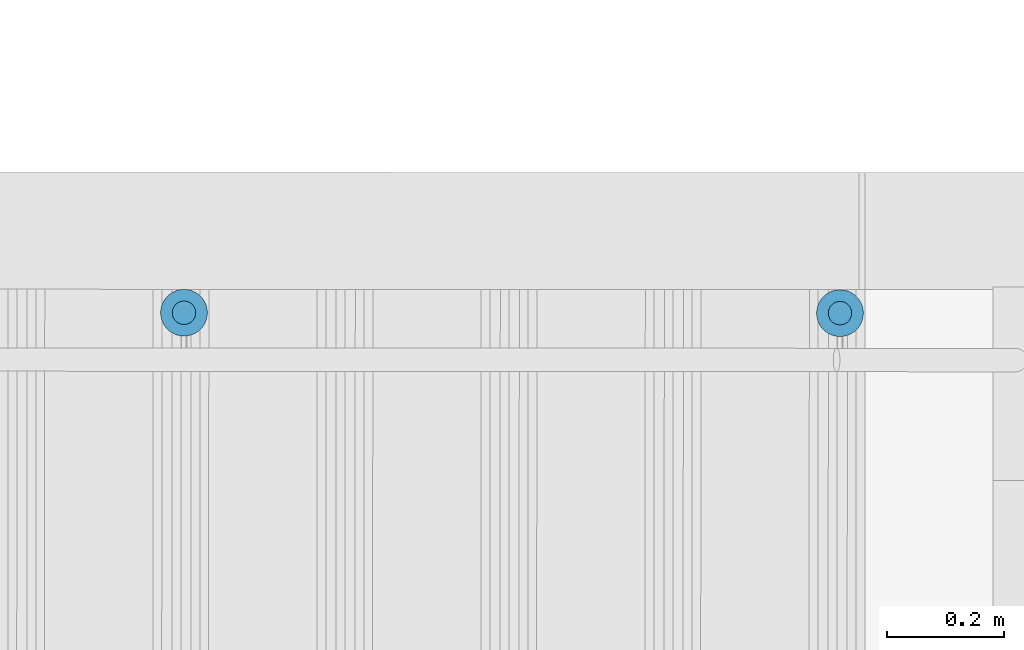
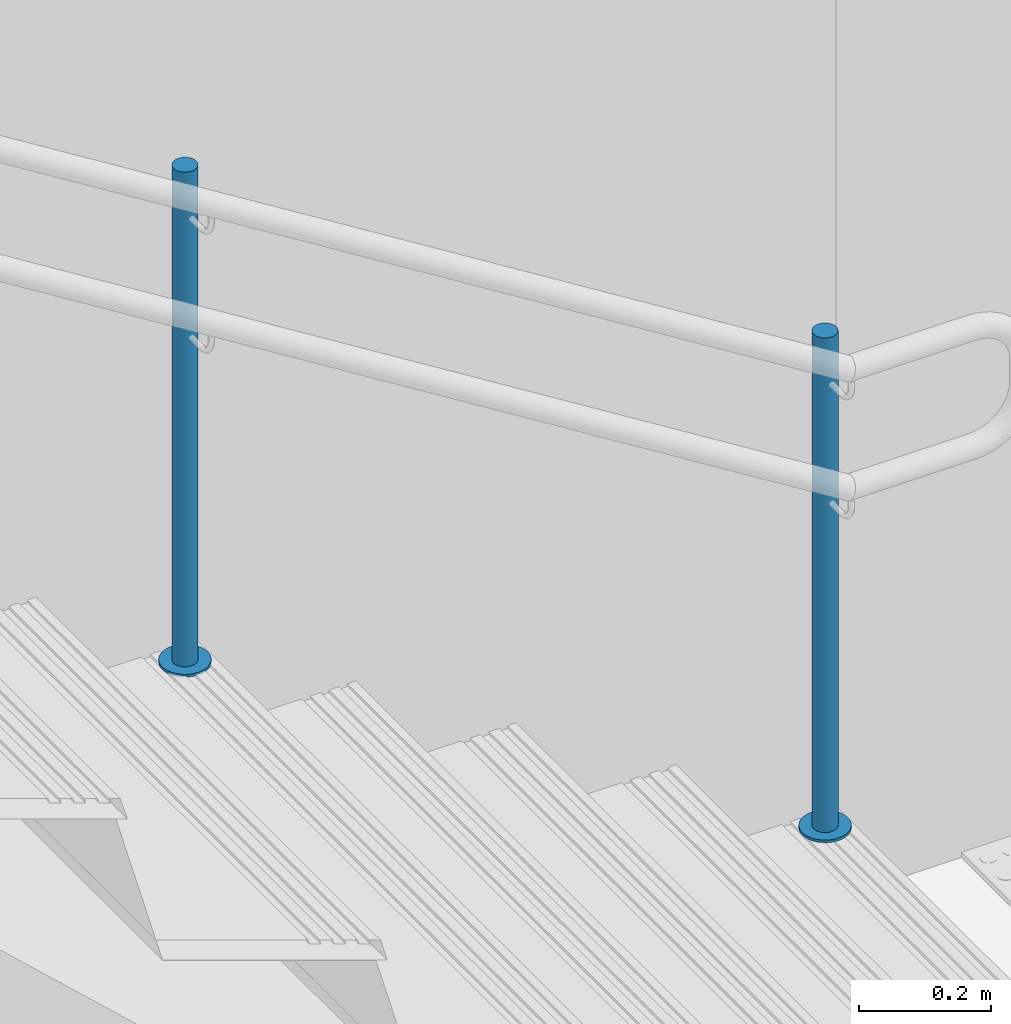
# One storey, part 139 of 237: 4 building element parts, 1 element without a shape of its own.
"""IFC2X3 building model written with IfcOpenShell, lengths in millimetres."""

from ifc_helpers import new_model, entity, si_unit, converted_unit, derived_unit, money_unit, direction, frame, origin_with_axes, place, context, subcontext, project, spatial, faceted_brep, material, type_object, element, aggregate, save


model = new_model("IFC2X3")

# Units and contexts
model_context = context("Model", 3, precision=0.01, world=origin_with_axes(), true_north=direction((0.0, 1.0)))
body_context = subcontext(model_context, "Body", "Model", "MODEL_VIEW")
ifc_project = project(units=[si_unit("LENGTHUNIT", "METRE", prefix="MILLI"), si_unit("AREAUNIT", "SQUARE_METRE"), si_unit("VOLUMEUNIT", "CUBIC_METRE"), converted_unit("PLANEANGLEUNIT", "DEGREE", entity("IfcPlaneAngleMeasure", 0.0174532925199), si_unit("PLANEANGLEUNIT", "RADIAN"), dimensions=[0, 0, 0, 0, 0, 0, 0]), money_unit("USD"), converted_unit("TIMEUNIT", "Year", entity("IfcTimeMeasure", 31556926.0), si_unit("TIMEUNIT", "SECOND"), dimensions=[0, 0, 1, 0, 0, 0, 0]), si_unit("MASSUNIT", "GRAM", prefix="KILO"), si_unit("THERMODYNAMICTEMPERATUREUNIT", "DEGREE_CELSIUS"), si_unit("LUMINOUSINTENSITYUNIT", "LUMEN"), si_unit("ENERGYUNIT", "JOULE", prefix="MEGA"), derived_unit("THERMALCONDUCTANCEUNIT", [(si_unit("POWERUNIT", "WATT"), 1), (si_unit("LENGTHUNIT", "METRE"), -1), (si_unit("THERMODYNAMICTEMPERATUREUNIT", "KELVIN"), -1)]), derived_unit("SPECIFICHEATCAPACITYUNIT", [(si_unit("ENERGYUNIT", "JOULE"), 1), (si_unit("MASSUNIT", "GRAM", prefix="KILO"), -1), (si_unit("THERMODYNAMICTEMPERATUREUNIT", "KELVIN"), -1)]), derived_unit("MASSDENSITYUNIT", [(si_unit("MASSUNIT", "GRAM", prefix="KILO"), 1), (si_unit("VOLUMEUNIT", "CUBIC_METRE"), -1)])], contexts=[model_context])

# Site, building, storey
site_placement = place(None, origin_with_axes())
site = spatial("IfcSite", under=ifc_project, at=site_placement, Name="Local", CompositionType="ELEMENT")
building_placement = place(site_placement, origin_with_axes())
building = spatial("IfcBuilding", under=site, at=building_placement, Name="Construção", CompositionType="ELEMENT")
storey_placement = place(building_placement, origin_with_axes())
storey = spatial("IfcBuildingStorey", under=building, at=storey_placement, Name="Pavimento Térreo", CompositionType="ELEMENT", Elevation=0.0)

# Railing, building element parts
railing_type = type_object("IfcRailingType", Name="Tipo de Guarda-Corpo", PredefinedType="NOTDEFINED")
railing_placement = place(storey_placement, frame((104000.0, 34000.0, -7124.22292764), z_axis=(0.0, 0.0, 1.0), x_axis=(1.0, 0.0, 0.0)))
railing = element("IfcRailing", 1, at=railing_placement, inside=storey, type_object=railing_type, Name="Guarda-Corpo - 001", PredefinedType="NOTDEFINED")
ifc_material_1 = material(Name="Aço - Inoxidável")
building_element_part_1_placement = place(railing_placement, origin_with_axes())
building_element_part_1 = element("IfcBuildingElementPart", 2, at=building_element_part_1_placement, material=ifc_material_1, Name="Aço - Inoxidável", context=body_context, shape_type="Brep", body=[
    faceted_brep([(-412.738263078, 431.137406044, 29.9419332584), (-416.211045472, 431.443314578, 29.9419332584), (-416.211045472, 431.443314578, 944.941933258), (-412.738263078, 431.137406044, 944.941933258), (-419.684188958, 431.14153334, 29.9419332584), (-409.371360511, 430.233102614, 29.9419332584), (-406.212639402, 428.75788109, 29.9419332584), (-403.358075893, 426.756565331, 29.9419332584), (-400.894404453, 424.289964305, 29.9419332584), (-398.896482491, 421.433024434, 29.9419332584), (-397.425015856, 418.272552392, 29.9419332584), (-396.524714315, 414.904577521, 29.9419332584), (-396.222933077, 411.431434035, 29.9419332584), (-396.528841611, 407.958651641, 29.9419332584), (-397.433145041, 404.591749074, 29.9419332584), (-398.908366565, 401.433027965, 29.9419332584), (-400.909682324, 398.578464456, 29.9419332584), (-403.376283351, 396.114793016, 29.9419332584), (-406.233223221, 394.116871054, 29.9419332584), (-409.393695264, 392.645404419, 29.9419332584), (-412.761670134, 391.745102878, 29.9419332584), (-416.23481362, 391.44332164, 29.9419332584), (-419.707596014, 391.749230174, 29.9419332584), (-423.074498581, 392.653533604, 29.9419332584), (-426.23321969, 394.128755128, 29.9419332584), (-429.087783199, 396.130070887, 29.9419332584), (-431.551454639, 398.596671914, 29.9419332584), (-433.549376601, 401.453611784, 29.9419332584), (-435.020843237, 404.614083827, 29.9419332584), (-435.921144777, 407.982058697, 29.9419332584), (-436.222926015, 411.455202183, 29.9419332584), (-435.917017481, 414.927984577, 29.9419332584), (-435.012714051, 418.294887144, 29.9419332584), (-433.537492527, 421.453608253, 29.9419332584), (-431.536176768, 424.308171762, 29.9419332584), (-429.069575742, 426.771843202, 29.9419332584), (-426.212635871, 428.769765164, 29.9419332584), (-423.052163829, 430.2412318, 29.9419332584), (-419.684188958, 431.14153334, 944.941933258), (-396.528841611, 407.958651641, 944.941933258), (-396.222933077, 411.431434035, 944.941933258), (-396.524714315, 414.904577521, 944.941933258), (-397.425015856, 418.272552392, 944.941933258), (-398.896482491, 421.433024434, 944.941933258), (-400.894404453, 424.289964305, 944.941933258), (-403.358075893, 426.756565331, 944.941933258), (-406.212639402, 428.75788109, 944.941933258), (-409.371360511, 430.233102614, 944.941933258), (-423.052163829, 430.2412318, 944.941933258), (-426.212635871, 428.769765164, 944.941933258), (-429.069575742, 426.771843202, 944.941933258), (-431.536176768, 424.308171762, 944.941933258), (-433.537492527, 421.453608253, 944.941933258), (-435.012714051, 418.294887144, 944.941933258), (-435.917017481, 414.927984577, 944.941933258), (-436.222926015, 411.455202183, 944.941933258), (-435.921144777, 407.982058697, 944.941933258), (-435.020843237, 404.614083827, 944.941933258), (-433.549376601, 401.453611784, 944.941933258), (-431.551454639, 398.596671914, 944.941933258), (-429.087783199, 396.130070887, 944.941933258), (-426.23321969, 394.128755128, 944.941933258), (-423.074498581, 392.653533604, 944.941933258), (-419.707596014, 391.749230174, 944.941933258), (-416.23481362, 391.44332164, 944.941933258), (-412.761670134, 391.745102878, 944.941933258), (-409.393695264, 392.645404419, 944.941933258), (-406.233223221, 394.116871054, 944.941933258), (-403.376283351, 396.114793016, 944.941933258), (-400.909682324, 398.578464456, 944.941933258), (-398.908366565, 401.433027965, 944.941933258), (-397.433145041, 404.591749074, 944.941933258)], [[[0, 1, 2, 3]], [[4, 1, 0, 5, 6, 7, 8, 9, 10, 11, 12, 13, 14, 15, 16, 17, 18, 19, 20, 21, 22, 23, 24, 25, 26, 27, 28, 29, 30, 31, 32, 33, 34, 35, 36, 37]], [[1, 4, 38, 2]], [[39, 40, 41, 42, 43, 44, 45, 46, 47, 3, 2, 38, 48, 49, 50, 51, 52, 53, 54, 55, 56, 57, 58, 59, 60, 61, 62, 63, 64, 65, 66, 67, 68, 69, 70, 71]], [[5, 0, 3, 47]], [[6, 5, 47, 46]], [[7, 6, 46, 45]], [[8, 7, 45, 44]], [[9, 8, 44, 43]], [[10, 9, 43, 42]], [[11, 10, 42, 41]], [[12, 11, 41, 40]], [[13, 12, 40, 39]], [[14, 13, 39, 71]], [[15, 14, 71, 70]], [[16, 15, 70, 69]], [[17, 16, 69, 68]], [[18, 17, 68, 67]], [[19, 18, 67, 66]], [[20, 19, 66, 65]], [[21, 20, 65, 64]], [[22, 21, 64, 63]], [[23, 22, 63, 62]], [[24, 23, 62, 61]], [[25, 24, 61, 60]], [[26, 25, 60, 59]], [[27, 26, 59, 58]], [[28, 27, 58, 57]], [[29, 28, 57, 56]], [[30, 29, 56, 55]], [[31, 30, 55, 54]], [[32, 31, 54, 53]], [[33, 32, 53, 52]], [[34, 33, 52, 51]], [[35, 34, 51, 50]], [[36, 35, 50, 49]], [[37, 36, 49, 48]], [[4, 37, 48, 38]]]),
])
ifc_material_2 = material(Name="Alumínio")
building_element_part_2_placement = place(railing_placement, origin_with_axes())
building_element_part_2 = element("IfcBuildingElementPart", 3, at=building_element_part_2_placement, material=ifc_material_2, Name="Alumínio", context=body_context, shape_type="Brep", body=[
    faceted_brep([(-456.222922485, 411.467086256, 24.9419332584), (-455.619360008, 404.520799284, 24.9419332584), (-455.619360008, 404.520799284, 29.9419332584), (-456.222922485, 411.467086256, 29.9419332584), (-455.611105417, 418.412651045, 24.9419332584), (-453.802498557, 425.14645618, 24.9419332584), (-450.852055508, 431.463898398, 24.9419332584), (-446.849423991, 437.173025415, 24.9419332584), (-441.916221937, 442.100368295, 24.9419332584), (-436.202342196, 446.096212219, 24.9419332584), (-429.881398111, 449.03914549, 24.9419332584), (-423.145448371, 450.839748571, 24.9419332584), (-416.199161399, 451.443311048, 24.9419332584), (-409.25359661, 450.83149398, 24.9419332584), (-402.519791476, 449.02288712, 24.9419332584), (-396.202349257, 446.072444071, 24.9419332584), (-390.493222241, 442.069812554, 24.9419332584), (-385.56587936, 437.1366105, 24.9419332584), (-381.570035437, 431.422730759, 24.9419332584), (-378.627102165, 425.101786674, 24.9419332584), (-376.826499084, 418.365836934, 24.9419332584), (-376.222936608, 411.419549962, 24.9419332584), (-376.834753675, 404.473985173, 24.9419332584), (-378.643360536, 397.740180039, 24.9419332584), (-381.593803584, 391.42273782, 24.9419332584), (-385.596435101, 385.713610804, 24.9419332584), (-390.529637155, 380.786267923, 24.9419332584), (-396.243516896, 376.790424, 24.9419332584), (-402.564460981, 373.847490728, 24.9419332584), (-409.300410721, 372.046887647, 24.9419332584), (-416.246697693, 371.443325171, 24.9419332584), (-423.192262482, 372.055142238, 24.9419332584), (-429.926067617, 373.863749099, 24.9419332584), (-436.243509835, 376.814192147, 24.9419332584), (-441.952636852, 380.816823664, 24.9419332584), (-446.879979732, 385.750025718, 24.9419332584), (-450.875823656, 391.463905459, 24.9419332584), (-453.818756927, 397.784849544, 24.9419332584), (-453.818756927, 397.784849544, 29.9419332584), (-450.875823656, 391.463905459, 29.9419332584), (-446.879979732, 385.750025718, 29.9419332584), (-441.952636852, 380.816823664, 29.9419332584), (-436.243509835, 376.814192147, 29.9419332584), (-429.926067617, 373.863749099, 29.9419332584), (-423.192262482, 372.055142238, 29.9419332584), (-416.246697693, 371.443325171, 29.9419332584), (-409.300410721, 372.046887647, 29.9419332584), (-402.564460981, 373.847490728, 29.9419332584), (-396.243516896, 376.790424, 29.9419332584), (-390.529637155, 380.786267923, 29.9419332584), (-385.596435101, 385.713610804, 29.9419332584), (-381.593803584, 391.42273782, 29.9419332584), (-378.643360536, 397.740180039, 29.9419332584), (-376.834753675, 404.473985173, 29.9419332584), (-376.222936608, 411.419549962, 29.9419332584), (-376.826499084, 418.365836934, 29.9419332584), (-378.627102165, 425.101786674, 29.9419332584), (-381.570035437, 431.422730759, 29.9419332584), (-385.56587936, 437.1366105, 29.9419332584), (-390.493222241, 442.069812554, 29.9419332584), (-396.202349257, 446.072444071, 29.9419332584), (-402.519791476, 449.02288712, 29.9419332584), (-409.25359661, 450.83149398, 29.9419332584), (-416.199161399, 451.443311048, 29.9419332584), (-423.145448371, 450.839748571, 29.9419332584), (-429.881398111, 449.03914549, 29.9419332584), (-436.202342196, 446.096212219, 29.9419332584), (-441.916221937, 442.100368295, 29.9419332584), (-446.849423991, 437.173025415, 29.9419332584), (-450.852055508, 431.463898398, 29.9419332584), (-453.802498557, 425.14645618, 29.9419332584), (-455.611105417, 418.412651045, 29.9419332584)], [[[0, 1, 2, 3]], [[0, 4, 5, 6, 7, 8, 9, 10, 11, 12, 13, 14, 15, 16, 17, 18, 19, 20, 21, 22, 23, 24, 25, 26, 27, 28, 29, 30, 31, 32, 33, 34, 35, 36, 37, 1]], [[1, 37, 38, 2]], [[3, 2, 38, 39, 40, 41, 42, 43, 44, 45, 46, 47, 48, 49, 50, 51, 52, 53, 54, 55, 56, 57, 58, 59, 60, 61, 62, 63, 64, 65, 66, 67, 68, 69, 70, 71]], [[4, 0, 3, 71]], [[5, 4, 71, 70]], [[6, 5, 70, 69]], [[7, 6, 69, 68]], [[8, 7, 68, 67]], [[9, 8, 67, 66]], [[10, 9, 66, 65]], [[11, 10, 65, 64]], [[12, 11, 64, 63]], [[13, 12, 63, 62]], [[14, 13, 62, 61]], [[15, 14, 61, 60]], [[16, 15, 60, 59]], [[17, 16, 59, 58]], [[18, 17, 58, 57]], [[19, 18, 57, 56]], [[20, 19, 56, 55]], [[21, 20, 55, 54]], [[22, 21, 54, 53]], [[23, 22, 53, 52]], [[24, 23, 52, 51]], [[25, 24, 51, 50]], [[26, 25, 50, 49]], [[27, 26, 49, 48]], [[28, 27, 48, 47]], [[29, 28, 47, 46]], [[30, 29, 46, 45]], [[31, 30, 45, 44]], [[32, 31, 44, 43]], [[33, 32, 43, 42]], [[34, 33, 42, 41]], [[35, 34, 41, 40]], [[36, 35, 40, 39]], [[37, 36, 39, 38]]]),
])
building_element_part_3_placement = place(railing_placement, origin_with_axes())
building_element_part_3 = element("IfcBuildingElementPart", 4, at=building_element_part_3_placement, material=ifc_material_1, Name="Aço - Inoxidável", context=body_context, shape_type="Brep", body=[
    faceted_brep([(-1532.44236111, 431.802738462, 728.131678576), (-1535.91514351, 432.108646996, 728.131678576), (-1535.91514351, 432.108646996, 1643.13167858), (-1532.44236111, 431.802738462, 1643.13167858), (-1539.38828699, 431.806865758, 728.131678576), (-1529.07545855, 430.898435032, 728.131678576), (-1525.91673744, 429.423213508, 728.131678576), (-1523.06217393, 427.421897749, 728.131678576), (-1520.59850249, 424.955296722, 728.131678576), (-1518.60058053, 422.098356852, 728.131678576), (-1517.12911389, 418.937884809, 728.131678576), (-1516.22881235, 415.569909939, 728.131678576), (-1515.92703111, 412.096766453, 728.131678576), (-1516.23293965, 408.623984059, 728.131678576), (-1517.13724308, 405.257081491, 728.131678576), (-1518.6124646, 402.098360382, 728.131678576), (-1520.61378036, 399.243796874, 728.131678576), (-1523.08038139, 396.780125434, 728.131678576), (-1525.93732126, 394.782203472, 728.131678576), (-1529.0977933, 393.310736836, 728.131678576), (-1532.46576817, 392.410435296, 728.131678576), (-1535.93891165, 392.108654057, 728.131678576), (-1539.41169405, 392.414562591, 728.131678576), (-1542.77859662, 393.318866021, 728.131678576), (-1545.93731773, 394.794087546, 728.131678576), (-1548.79188123, 396.795403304, 728.131678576), (-1551.25555267, 399.262004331, 728.131678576), (-1553.25347464, 402.118944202, 728.131678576), (-1554.72494127, 405.279416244, 728.131678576), (-1555.62524281, 408.647391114, 728.131678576), (-1555.92702405, 412.1205346, 728.131678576), (-1555.62111552, 415.593316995, 728.131678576), (-1554.71681209, 418.960219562, 728.131678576), (-1553.24159056, 422.118940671, 728.131678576), (-1551.2402748, 424.973504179, 728.131678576), (-1548.77367378, 427.43717562, 728.131678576), (-1545.91673391, 429.435097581, 728.131678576), (-1542.75626186, 430.906564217, 728.131678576), (-1539.38828699, 431.806865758, 1643.13167858), (-1516.23293965, 408.623984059, 1643.13167858), (-1515.92703111, 412.096766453, 1643.13167858), (-1516.22881235, 415.569909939, 1643.13167858), (-1517.12911389, 418.937884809, 1643.13167858), (-1518.60058053, 422.098356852, 1643.13167858), (-1520.59850249, 424.955296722, 1643.13167858), (-1523.06217393, 427.421897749, 1643.13167858), (-1525.91673744, 429.423213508, 1643.13167858), (-1529.07545855, 430.898435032, 1643.13167858), (-1542.75626186, 430.906564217, 1643.13167858), (-1545.91673391, 429.435097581, 1643.13167858), (-1548.77367378, 427.43717562, 1643.13167858), (-1551.2402748, 424.973504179, 1643.13167858), (-1553.24159056, 422.118940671, 1643.13167858), (-1554.71681209, 418.960219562, 1643.13167858), (-1555.62111552, 415.593316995, 1643.13167858), (-1555.92702405, 412.1205346, 1643.13167858), (-1555.62524281, 408.647391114, 1643.13167858), (-1554.72494127, 405.279416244, 1643.13167858), (-1553.25347464, 402.118944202, 1643.13167858), (-1551.25555267, 399.262004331, 1643.13167858), (-1548.79188123, 396.795403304, 1643.13167858), (-1545.93731773, 394.794087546, 1643.13167858), (-1542.77859662, 393.318866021, 1643.13167858), (-1539.41169405, 392.414562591, 1643.13167858), (-1535.93891165, 392.108654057, 1643.13167858), (-1532.46576817, 392.410435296, 1643.13167858), (-1529.0977933, 393.310736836, 1643.13167858), (-1525.93732126, 394.782203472, 1643.13167858), (-1523.08038139, 396.780125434, 1643.13167858), (-1520.61378036, 399.243796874, 1643.13167858), (-1518.6124646, 402.098360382, 1643.13167858), (-1517.13724308, 405.257081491, 1643.13167858)], [[[0, 1, 2, 3]], [[4, 1, 0, 5, 6, 7, 8, 9, 10, 11, 12, 13, 14, 15, 16, 17, 18, 19, 20, 21, 22, 23, 24, 25, 26, 27, 28, 29, 30, 31, 32, 33, 34, 35, 36, 37]], [[1, 4, 38, 2]], [[39, 40, 41, 42, 43, 44, 45, 46, 47, 3, 2, 38, 48, 49, 50, 51, 52, 53, 54, 55, 56, 57, 58, 59, 60, 61, 62, 63, 64, 65, 66, 67, 68, 69, 70, 71]], [[5, 0, 3, 47]], [[6, 5, 47, 46]], [[7, 6, 46, 45]], [[8, 7, 45, 44]], [[9, 8, 44, 43]], [[10, 9, 43, 42]], [[11, 10, 42, 41]], [[12, 11, 41, 40]], [[13, 12, 40, 39]], [[14, 13, 39, 71]], [[15, 14, 71, 70]], [[16, 15, 70, 69]], [[17, 16, 69, 68]], [[18, 17, 68, 67]], [[19, 18, 67, 66]], [[20, 19, 66, 65]], [[21, 20, 65, 64]], [[22, 21, 64, 63]], [[23, 22, 63, 62]], [[24, 23, 62, 61]], [[25, 24, 61, 60]], [[26, 25, 60, 59]], [[27, 26, 59, 58]], [[28, 27, 58, 57]], [[29, 28, 57, 56]], [[30, 29, 56, 55]], [[31, 30, 55, 54]], [[32, 31, 54, 53]], [[33, 32, 53, 52]], [[34, 33, 52, 51]], [[35, 34, 51, 50]], [[36, 35, 50, 49]], [[37, 36, 49, 48]], [[4, 37, 48, 38]]]),
])
building_element_part_4_placement = place(railing_placement, origin_with_axes())
building_element_part_4 = element("IfcBuildingElementPart", 5, at=building_element_part_4_placement, material=ifc_material_2, Name="Alumínio", context=body_context, shape_type="Brep", body=[
    faceted_brep([(-1575.92702052, 412.132418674, 723.131678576), (-1575.32345804, 405.186131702, 723.131678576), (-1575.32345804, 405.186131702, 728.131678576), (-1575.92702052, 412.132418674, 728.131678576), (-1575.31520345, 419.077983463, 723.131678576), (-1573.50659659, 425.811788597, 723.131678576), (-1570.55615354, 432.129230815, 723.131678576), (-1566.55352203, 437.838357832, 723.131678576), (-1561.62031997, 442.765700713, 723.131678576), (-1555.90644023, 446.761544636, 723.131678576), (-1549.58549615, 449.704477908, 723.131678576), (-1542.84954641, 451.505080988, 723.131678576), (-1535.90325943, 452.108643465, 723.131678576), (-1528.95769465, 451.496826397, 723.131678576), (-1522.22388951, 449.688219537, 723.131678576), (-1515.90644729, 446.737776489, 723.131678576), (-1510.19732028, 442.735144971, 723.131678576), (-1505.2699774, 437.801942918, 723.131678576), (-1501.27413347, 432.088063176, 723.131678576), (-1498.3312002, 425.767119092, 723.131678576), (-1496.53059712, 419.031169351, 723.131678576), (-1495.92703464, 412.084882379, 723.131678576), (-1496.53885171, 405.13931759, 723.131678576), (-1498.34745857, 398.405512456, 723.131678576), (-1501.29790162, 392.088070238, 723.131678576), (-1505.30053314, 386.378943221, 723.131678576), (-1510.23373519, 381.451600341, 723.131678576), (-1515.94761493, 377.455756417, 723.131678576), (-1522.26855902, 374.512823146, 723.131678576), (-1529.00450876, 372.712220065, 723.131678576), (-1535.95079573, 372.108657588, 723.131678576), (-1542.89636052, 372.720474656, 723.131678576), (-1549.63016565, 374.529081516, 723.131678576), (-1555.94760787, 377.479524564, 723.131678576), (-1561.65673489, 381.482156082, 723.131678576), (-1566.58407777, 386.415358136, 723.131678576), (-1570.57992169, 392.129237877, 723.131678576), (-1573.52285496, 398.450181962, 723.131678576), (-1573.52285496, 398.450181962, 728.131678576), (-1570.57992169, 392.129237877, 728.131678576), (-1566.58407777, 386.415358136, 728.131678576), (-1561.65673489, 381.482156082, 728.131678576), (-1555.94760787, 377.479524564, 728.131678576), (-1549.63016565, 374.529081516, 728.131678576), (-1542.89636052, 372.720474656, 728.131678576), (-1535.95079573, 372.108657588, 728.131678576), (-1529.00450876, 372.712220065, 728.131678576), (-1522.26855902, 374.512823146, 728.131678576), (-1515.94761493, 377.455756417, 728.131678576), (-1510.23373519, 381.451600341, 728.131678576), (-1505.30053314, 386.378943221, 728.131678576), (-1501.29790162, 392.088070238, 728.131678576), (-1498.34745857, 398.405512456, 728.131678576), (-1496.53885171, 405.13931759, 728.131678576), (-1495.92703464, 412.084882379, 728.131678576), (-1496.53059712, 419.031169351, 728.131678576), (-1498.3312002, 425.767119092, 728.131678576), (-1501.27413347, 432.088063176, 728.131678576), (-1505.2699774, 437.801942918, 728.131678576), (-1510.19732028, 442.735144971, 728.131678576), (-1515.90644729, 446.737776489, 728.131678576), (-1522.22388951, 449.688219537, 728.131678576), (-1528.95769465, 451.496826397, 728.131678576), (-1535.90325943, 452.108643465, 728.131678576), (-1542.84954641, 451.505080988, 728.131678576), (-1549.58549615, 449.704477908, 728.131678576), (-1555.90644023, 446.761544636, 728.131678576), (-1561.62031997, 442.765700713, 728.131678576), (-1566.55352203, 437.838357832, 728.131678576), (-1570.55615354, 432.129230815, 728.131678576), (-1573.50659659, 425.811788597, 728.131678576), (-1575.31520345, 419.077983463, 728.131678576)], [[[0, 1, 2, 3]], [[0, 4, 5, 6, 7, 8, 9, 10, 11, 12, 13, 14, 15, 16, 17, 18, 19, 20, 21, 22, 23, 24, 25, 26, 27, 28, 29, 30, 31, 32, 33, 34, 35, 36, 37, 1]], [[1, 37, 38, 2]], [[3, 2, 38, 39, 40, 41, 42, 43, 44, 45, 46, 47, 48, 49, 50, 51, 52, 53, 54, 55, 56, 57, 58, 59, 60, 61, 62, 63, 64, 65, 66, 67, 68, 69, 70, 71]], [[4, 0, 3, 71]], [[5, 4, 71, 70]], [[6, 5, 70, 69]], [[7, 6, 69, 68]], [[8, 7, 68, 67]], [[9, 8, 67, 66]], [[10, 9, 66, 65]], [[11, 10, 65, 64]], [[12, 11, 64, 63]], [[13, 12, 63, 62]], [[14, 13, 62, 61]], [[15, 14, 61, 60]], [[16, 15, 60, 59]], [[17, 16, 59, 58]], [[18, 17, 58, 57]], [[19, 18, 57, 56]], [[20, 19, 56, 55]], [[21, 20, 55, 54]], [[22, 21, 54, 53]], [[23, 22, 53, 52]], [[24, 23, 52, 51]], [[25, 24, 51, 50]], [[26, 25, 50, 49]], [[27, 26, 49, 48]], [[28, 27, 48, 47]], [[29, 28, 47, 46]], [[30, 29, 46, 45]], [[31, 30, 45, 44]], [[32, 31, 44, 43]], [[33, 32, 43, 42]], [[34, 33, 42, 41]], [[35, 34, 41, 40]], [[36, 35, 40, 39]], [[37, 36, 39, 38]]]),
])
aggregate(railing, [building_element_part_1, building_element_part_2, building_element_part_3, building_element_part_4])

save(model, "model.ifc")
